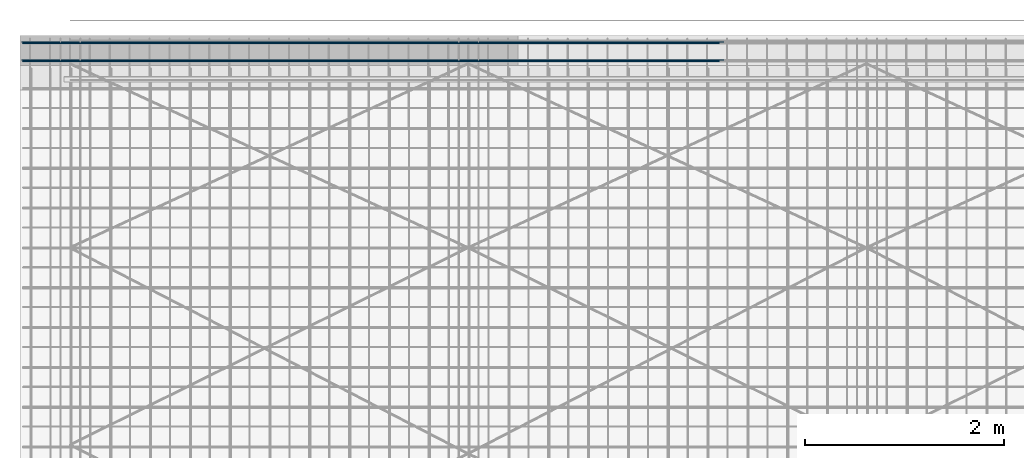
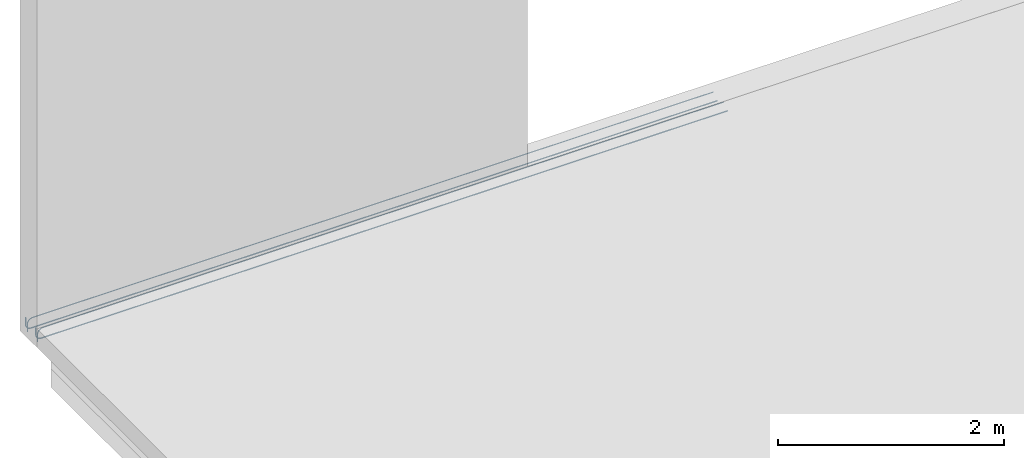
# One storey, part 5 of 8: 2 reinforcing bars.
"""IFC4X3_ADD2 building model written with IfcOpenShell, lengths in millimetres."""

from ifc_helpers import new_model, entity, si_unit, converted_unit, derived_unit, direction, frame, origin, place, context, subcontext, project, spatial, material, type_object, element, save


model = new_model("IFC4X3_ADD2")

# Units and contexts
model_context = context("Model", 3, precision=0.01, world=origin(), true_north=direction((6.123233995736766e-17, 1.0)))
plan_context = context("Plan", 3, precision=0.01, world=origin(), true_north=direction((6.123233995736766e-17, 1.0)))
body_context = subcontext(model_context, "Body", "Model", "MODEL_VIEW")
ifc_project = project(units=[si_unit("LENGTHUNIT", "METRE", prefix="MILLI"), converted_unit("PLANEANGLEUNIT", "DEGREE", entity("IfcPlaneAngleMeasure", 0.017453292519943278), si_unit("PLANEANGLEUNIT", "RADIAN"), dimensions=[0, 0, 0, 0, 0, 0, 0]), si_unit("AREAUNIT", "SQUARE_METRE"), si_unit("VOLUMEUNIT", "CUBIC_METRE"), derived_unit("THERMALTRANSMITTANCEUNIT", [(si_unit("MASSUNIT", "GRAM", prefix="KILO"), 1), (si_unit("THERMODYNAMICTEMPERATUREUNIT", "KELVIN"), -1), (si_unit("TIMEUNIT", "SECOND"), -3)]), derived_unit("USERDEFINED", [(si_unit("MASSUNIT", "GRAM", prefix="KILO"), 1), (si_unit("THERMODYNAMICTEMPERATUREUNIT", "KELVIN"), -1), (si_unit("TIMEUNIT", "SECOND"), -2)]), derived_unit("THERMALRESISTANCEUNIT", [(si_unit("MASSUNIT", "GRAM", prefix="KILO"), -1), (si_unit("TIMEUNIT", "SECOND"), 3), (si_unit("THERMODYNAMICTEMPERATUREUNIT", "KELVIN"), 1)]), si_unit("MASSUNIT", "GRAM", prefix="KILO"), derived_unit("MOMENTOFINERTIAUNIT", [(si_unit("LENGTHUNIT", "METRE"), 4)]), derived_unit("LINEARFORCEUNIT", [(si_unit("MASSUNIT", "GRAM", prefix="KILO"), 1), (si_unit("TIMEUNIT", "SECOND"), -2)]), derived_unit("WARPINGCONSTANTUNIT", [(si_unit("LENGTHUNIT", "METRE"), 6)]), si_unit("PRESSUREUNIT", "PASCAL"), derived_unit("MASSDENSITYUNIT", [(si_unit("MASSUNIT", "GRAM", prefix="KILO"), 1), (si_unit("LENGTHUNIT", "METRE"), -3)]), derived_unit("MODULUSOFELASTICITYUNIT", [(si_unit("MASSUNIT", "GRAM", prefix="KILO"), 1), (si_unit("TIMEUNIT", "SECOND"), -2), (si_unit("LENGTHUNIT", "METRE"), -1)]), derived_unit("THERMALEXPANSIONCOEFFICIENTUNIT", [(si_unit("THERMODYNAMICTEMPERATUREUNIT", "KELVIN"), -1)]), derived_unit("VAPORPERMEABILITYUNIT", [(si_unit("LENGTHUNIT", "METRE"), -1), (si_unit("TIMEUNIT", "SECOND"), 1)]), derived_unit("USERDEFINED", [(si_unit("MASSUNIT", "GRAM", prefix="KILO"), 1), (si_unit("TIMEUNIT", "SECOND"), -3), (si_unit("LENGTHUNIT", "METRE"), 3), (si_unit("ELECTRICCURRENTUNIT", "AMPERE"), -2)]), derived_unit("SPECIFICHEATCAPACITYUNIT", [(si_unit("THERMODYNAMICTEMPERATUREUNIT", "KELVIN"), -1), (si_unit("TIMEUNIT", "SECOND"), -2), (si_unit("LENGTHUNIT", "METRE"), 2)]), derived_unit("THERMALCONDUCTANCEUNIT", [(si_unit("MASSUNIT", "GRAM", prefix="KILO"), 1), (si_unit("THERMODYNAMICTEMPERATUREUNIT", "KELVIN"), -1), (si_unit("TIMEUNIT", "SECOND"), -3), (si_unit("LENGTHUNIT", "METRE"), 1)])], contexts=[model_context, plan_context])

# Site, building, storey
site_placement = place(None, origin())
site = spatial("IfcSite", under=ifc_project, at=site_placement, Name="Default", CompositionType="ELEMENT")
building_placement = place(site_placement, origin())
building = spatial("IfcBuilding", under=site, at=building_placement, Name="Complex structure", CompositionType="ELEMENT")
storey_placement = place(building_placement, frame((0.0, 0.0, -400.0)))
storey = spatial("IfcBuildingStorey", under=building, at=storey_placement, Name="Level -02", CompositionType="ELEMENT", Elevation=-400.0)

# Reinforcing bars
ifc_material = material(Name="Steel Rebar - B500A, B or C", Category="Unassigned")
reinforcing_bar_type_1 = type_object("IfcReinforcingBarType", Name="Rebar Bar:12mm", PredefinedType="NOTDEFINED")
reinforcing_bar_1_placement = place(storey_placement, origin())
element("IfcReinforcingBar", 1, at=reinforcing_bar_1_placement, inside=storey, type_object=reinforcing_bar_type_1, material=ifc_material, Name="Rebar Bar:12mm : Shape 12", ObjectType="Rebar Bar:12mm", context=body_context, shape_type="AdvancedSweptSolid", body=[
    entity("IfcSweptDiskSolid", entity("IfcCompositeCurve", [entity("IfcCompositeCurveSegment", "CONTINUOUS", True, entity("IfcPolyline", [entity("IfcCartesianPoint", [-13626.221550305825, 4640.133296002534, 175.0]), entity("IfcCartesianPoint", [-13626.221550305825, 4640.133296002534, 99.0])])), entity("IfcCompositeCurveSegment", "CONTINUOUS", True, entity("IfcTrimmedCurve", entity("IfcCircle", entity("IfcAxis2Placement3D", entity("IfcCartesianPoint", [-13570.221550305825, 4640.133296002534, 99.0]), entity("IfcDirection", [0.0, -1.0, 0.0]), entity("IfcDirection", [0.0, 0.0, -1.0])), 56.0), [entity("IfcParameterValue", 269.9999999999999)], [entity("IfcParameterValue", 360.00000000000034)], True, "PARAMETER")), entity("IfcCompositeCurveSegment", "CONTINUOUS", True, entity("IfcPolyline", [entity("IfcCartesianPoint", [-13570.221550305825, 4640.133296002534, 43.0]), entity("IfcCartesianPoint", [-6573.221550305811, 4640.133296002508, 43.0])]))], False), 6.0, None, 0.0, 92.00000000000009),
    entity("IfcSweptDiskSolid", entity("IfcCompositeCurve", [entity("IfcCompositeCurveSegment", "CONTINUOUS", True, entity("IfcPolyline", [entity("IfcCartesianPoint", [-13626.221550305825, 4820.133296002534, 175.0]), entity("IfcCartesianPoint", [-13626.221550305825, 4820.133296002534, 99.0])])), entity("IfcCompositeCurveSegment", "CONTINUOUS", True, entity("IfcTrimmedCurve", entity("IfcCircle", entity("IfcAxis2Placement3D", entity("IfcCartesianPoint", [-13570.221550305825, 4820.133296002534, 99.0]), entity("IfcDirection", [0.0, -1.0, 0.0]), entity("IfcDirection", [0.0, 0.0, -1.0])), 56.0), [entity("IfcParameterValue", 269.9999999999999)], [entity("IfcParameterValue", 360.00000000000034)], True, "PARAMETER")), entity("IfcCompositeCurveSegment", "CONTINUOUS", True, entity("IfcPolyline", [entity("IfcCartesianPoint", [-13570.221550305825, 4820.133296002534, 43.0]), entity("IfcCartesianPoint", [-6573.221550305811, 4820.133296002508, 43.0])]))], False), 6.0, None, 0.0, 92.00000000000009),
])
reinforcing_bar_type_2 = type_object("IfcReinforcingBarType", Name="Rebar Bar:10mm", PredefinedType="NOTDEFINED")
reinforcing_bar_2_placement = place(storey_placement, origin())
element("IfcReinforcingBar", 2, at=reinforcing_bar_2_placement, inside=storey, type_object=reinforcing_bar_type_2, material=ifc_material, Name="Rebar Bar:10mm : Shape 12", ObjectType="Rebar Bar:10mm", context=body_context, shape_type="AdvancedSweptSolid", body=[
    entity("IfcSweptDiskSolid", entity("IfcCompositeCurve", [entity("IfcCompositeCurveSegment", "CONTINUOUS", True, entity("IfcPolyline", [entity("IfcCartesianPoint", [-6620.221550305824, 4629.133296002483, 160.0]), entity("IfcCartesianPoint", [-13560.221550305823, 4629.133296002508, 160.0])])), entity("IfcCompositeCurveSegment", "CONTINUOUS", True, entity("IfcTrimmedCurve", entity("IfcCircle", entity("IfcAxis2Placement3D", entity("IfcCartesianPoint", [-13560.221550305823, 4629.133296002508, 105.0]), entity("IfcDirection", [0.0, -1.0, 0.0]), entity("IfcDirection", [-1.0, 0.0, 0.0])), 55.0), [entity("IfcParameterValue", 269.9999999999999)], [entity("IfcParameterValue", 360.00000000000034)], True, "PARAMETER")), entity("IfcCompositeCurveSegment", "CONTINUOUS", True, entity("IfcPolyline", [entity("IfcCartesianPoint", [-13615.221550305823, 4629.133296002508, 105.0]), entity("IfcCartesianPoint", [-13615.221550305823, 4629.133296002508, 25.0])]))], False), 5.0, None, 0.0, 92.00000000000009),
    entity("IfcSweptDiskSolid", entity("IfcCompositeCurve", [entity("IfcCompositeCurveSegment", "CONTINUOUS", True, entity("IfcPolyline", [entity("IfcCartesianPoint", [-6620.221550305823, 4809.133296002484, 160.0]), entity("IfcCartesianPoint", [-13560.221550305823, 4809.133296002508, 160.0])])), entity("IfcCompositeCurveSegment", "CONTINUOUS", True, entity("IfcTrimmedCurve", entity("IfcCircle", entity("IfcAxis2Placement3D", entity("IfcCartesianPoint", [-13560.221550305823, 4809.133296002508, 105.0]), entity("IfcDirection", [0.0, -1.0, 0.0]), entity("IfcDirection", [-1.0, 0.0, 0.0])), 55.0), [entity("IfcParameterValue", 269.9999999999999)], [entity("IfcParameterValue", 360.00000000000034)], True, "PARAMETER")), entity("IfcCompositeCurveSegment", "CONTINUOUS", True, entity("IfcPolyline", [entity("IfcCartesianPoint", [-13615.221550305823, 4809.133296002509, 105.0]), entity("IfcCartesianPoint", [-13615.221550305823, 4809.133296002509, 25.0])]))], False), 5.0, None, 0.0, 92.00000000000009),
])

save(model, "model.ifc")
